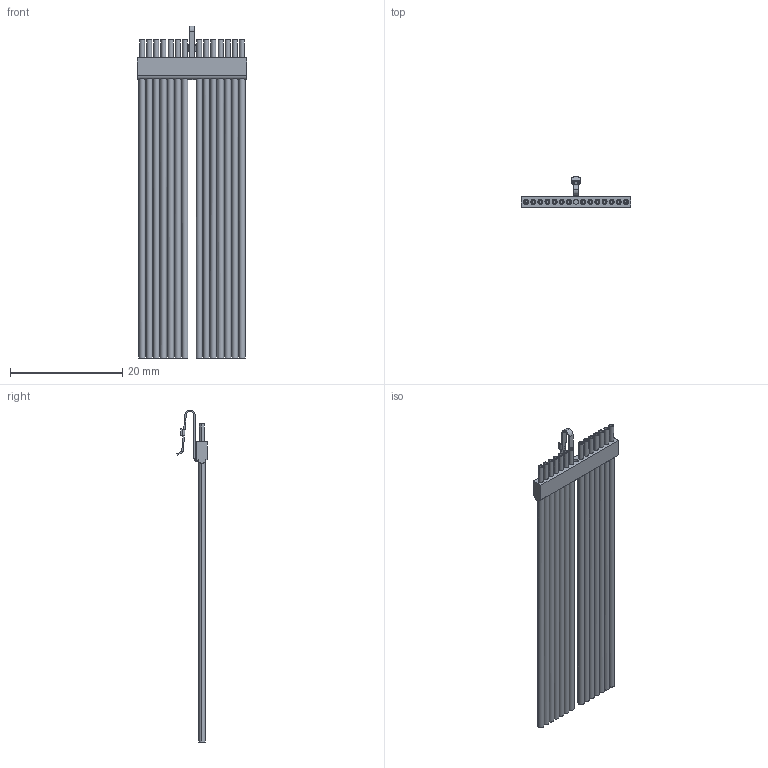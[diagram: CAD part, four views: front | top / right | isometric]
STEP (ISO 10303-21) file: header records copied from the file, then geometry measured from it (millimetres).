
FILE_DESCRIPTION (( 'STEP AP214' ), '1' );
FILE_NAME ('A25000-014.STEP', '2015-11-04T14:24:06', ( '' ), ( '' ), 'SwSTEP 2.0', 'SolidWorks 2015', '' );
FILE_SCHEMA (( 'AUTOMOTIVE_DESIGN' ));
Length unit declared in the file: inch
Products named in the file (1): A25000-014
Bounding box: 19.56 x 5.45 x 59.11 mm (x, y, z)
Volume: 799.9 mm3; surface area: 3147.5 mm2
Topology: 1 solids, 15 shells, 548 faces, 1262 edges, 830 vertices
Faces by surface type: plane 254, cylinder 215, bspline 48, torus 31
Entity records: 18577 total; most frequent: CARTESIAN_POINT 5963, DIRECTION 2607, ORIENTED_EDGE 2524, EDGE_CURVE 1262, AXIS2_PLACEMENT_3D 970, VERTEX_POINT 830, VECTOR 667, LINE 667
